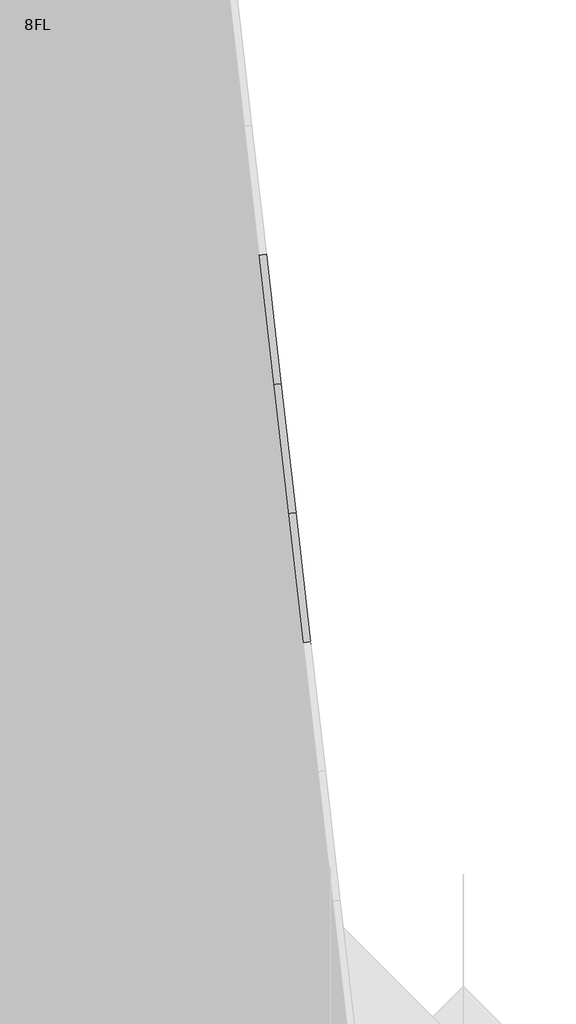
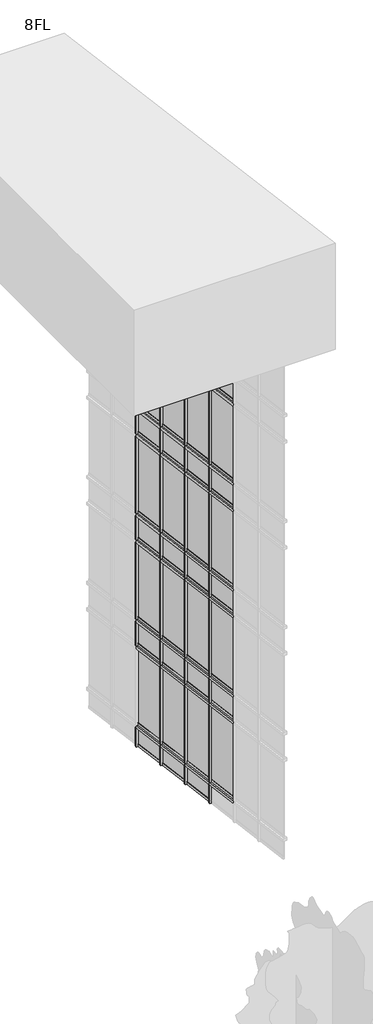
# One storey, part 3 of 4: 86 members, 43 plates.
"""IFC4 building model written with IfcOpenShell, lengths in millimetres."""

from ifc_helpers import new_model, si_unit, origin, place, context, project, spatial, transform, mapped, element, save
from components import member_100x150_b54df6fd, member_25x150_6388a252, member_70x150_d0359e29, member_70x150_07c10103, member_70x150_ebb47e88, member_70x150_8bab1bdf, plate_b29589f3, plate_a40ee780, plate_46ec0250, plate_b89069fe

model = new_model("IFC4")

# Units and contexts
model_context = context("Model", 3, world=origin())
ifc_project = project(units=[si_unit("LENGTHUNIT", "METRE", prefix="MILLI")], contexts=[model_context])

# Site, building, storey
site = spatial("IfcSite", under=ifc_project)
building = spatial("IfcBuilding", under=site)
storey = spatial("IfcBuildingStorey", under=building, Name="8FL", Elevation=28600.0)

# Members
placement = place(None, origin())
member_100x150_shape = member_100x150_b54df6fd(model_context)
element("IfcMember", 1, ObjectType="長方形のマリオン : 100x150", at=placement, inside=storey, context=model_context, shape_type="MappedRepresentation", body=[
    mapped(member_100x150_shape, transform((3528.4531013, 2867.8687169, 24600.0), x_axis=(0.0, 0.0, 1.0), y_axis=(0.9935326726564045, 0.11354659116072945, 0.0), z_axis=(-0.11354659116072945, 0.9935326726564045, 0.0))),
])
element("IfcMember", 2, ObjectType="長方形のマリオン : 100x150", at=placement, inside=storey, context=model_context, shape_type="MappedRepresentation", body=[
    mapped(member_100x150_shape, transform((3384.0375169, 4131.5050805, 24600.0), x_axis=(0.0, 0.0, 1.0), y_axis=(0.9935326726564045, 0.11354659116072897, 0.0), z_axis=(-0.11354659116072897, 0.9935326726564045, 0.0))),
])
element("IfcMember", 3, ObjectType="長方形のマリオン : 100x150", at=placement, inside=storey, context=model_context, shape_type="MappedRepresentation", body=[
    mapped(member_100x150_shape, transform((3239.6219325, 5395.1414442, 24600.0), x_axis=(0.0, 0.0, 1.0), y_axis=(0.9935326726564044, 0.11354659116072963, 0.0), z_axis=(-0.11354659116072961, 0.9935326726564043, 0.0))),
])
element("IfcMember", 4, ObjectType="長方形のマリオン : 100x150", at=placement, inside=storey, context=model_context, shape_type="MappedRepresentation", body=[
    mapped(member_100x150_shape, transform((3095.2063481, 6658.7778078, 24600.0), x_axis=(0.0, 0.0, 1.0), y_axis=(0.9935326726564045, 0.11354659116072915, 0.0), z_axis=(-0.11354659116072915, 0.9935326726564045, 0.0))),
])
element("IfcMember", 5, ObjectType="長方形のマリオン : 100x150", at=placement, inside=storey, context=model_context, shape_type="MappedRepresentation", body=[
    mapped(member_100x150_shape, transform((3528.4531013, 2867.8687169, 23600.0), x_axis=(0.0, 0.0, 1.0), y_axis=(0.9935326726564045, 0.11354659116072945, 0.0), z_axis=(-0.11354659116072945, 0.9935326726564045, 0.0))),
])
element("IfcMember", 6, ObjectType="長方形のマリオン : 100x150", at=placement, inside=storey, context=model_context, shape_type="MappedRepresentation", body=[
    mapped(member_100x150_shape, transform((3384.0375169, 4131.5050805, 23600.0), x_axis=(0.0, 0.0, 1.0), y_axis=(0.9935326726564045, 0.11354659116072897, 0.0), z_axis=(-0.11354659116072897, 0.9935326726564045, 0.0))),
])
element("IfcMember", 7, ObjectType="長方形のマリオン : 100x150", at=placement, inside=storey, context=model_context, shape_type="MappedRepresentation", body=[
    mapped(member_100x150_shape, transform((3239.6219325, 5395.1414442, 23600.0), x_axis=(0.0, 0.0, 1.0), y_axis=(0.9935326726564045, 0.11354659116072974, 0.0), z_axis=(-0.11354659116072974, 0.9935326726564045, 0.0))),
])
element("IfcMember", 8, ObjectType="長方形のマリオン : 100x150", at=placement, inside=storey, context=model_context, shape_type="MappedRepresentation", body=[
    mapped(member_100x150_shape, transform((3095.2063481, 6658.7778078, 23600.0), x_axis=(0.0, 0.0, 1.0), y_axis=(0.9935326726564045, 0.11354659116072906, 0.0), z_axis=(-0.11354659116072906, 0.9935326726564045, 0.0))),
])
element("IfcMember", 9, ObjectType="長方形のマリオン : 100x150", at=placement, inside=storey, context=model_context, shape_type="MappedRepresentation", body=[
    mapped(member_100x150_shape, transform((3528.4531013, 2867.8687169, 20600.0), x_axis=(0.0, 0.0, 1.0), y_axis=(0.9935326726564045, 0.11354659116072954, 0.0), z_axis=(-0.11354659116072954, 0.9935326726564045, 0.0))),
])
element("IfcMember", 10, ObjectType="長方形のマリオン : 100x150", at=placement, inside=storey, context=model_context, shape_type="MappedRepresentation", body=[
    mapped(member_100x150_shape, transform((3384.0375169, 4131.5050805, 20600.0), x_axis=(0.0, 0.0, 1.0), y_axis=(0.9935326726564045, 0.11354659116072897, 0.0), z_axis=(-0.11354659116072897, 0.9935326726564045, 0.0))),
])
element("IfcMember", 11, ObjectType="長方形のマリオン : 100x150", at=placement, inside=storey, context=model_context, shape_type="MappedRepresentation", body=[
    mapped(member_100x150_shape, transform((3239.6219325, 5395.1414442, 20600.0), x_axis=(0.0, 0.0, 1.0), y_axis=(0.9935326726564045, 0.11354659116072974, 0.0), z_axis=(-0.11354659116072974, 0.9935326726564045, 0.0))),
])
element("IfcMember", 12, ObjectType="長方形のマリオン : 100x150", at=placement, inside=storey, context=model_context, shape_type="MappedRepresentation", body=[
    mapped(member_100x150_shape, transform((3095.2063481, 6658.7778078, 20600.0), x_axis=(0.0, 0.0, 1.0), y_axis=(0.9935326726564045, 0.11354659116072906, 0.0), z_axis=(-0.11354659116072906, 0.9935326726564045, 0.0))),
])
element("IfcMember", 13, ObjectType="長方形のマリオン : 100x150", at=placement, inside=storey, context=model_context, shape_type="MappedRepresentation", body=[
    mapped(member_100x150_shape, transform((3528.4531013, 2867.8687169, 19600.0), x_axis=(0.0, 0.0, 1.0), y_axis=(0.9935326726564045, 0.11354659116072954, 0.0), z_axis=(-0.11354659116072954, 0.9935326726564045, 0.0))),
])
element("IfcMember", 14, ObjectType="長方形のマリオン : 100x150", at=placement, inside=storey, context=model_context, shape_type="MappedRepresentation", body=[
    mapped(member_100x150_shape, transform((3384.0375169, 4131.5050805, 19600.0), x_axis=(0.0, 0.0, 1.0), y_axis=(0.9935326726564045, 0.1135465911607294, 0.0), z_axis=(-0.1135465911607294, 0.9935326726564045, 0.0))),
])
element("IfcMember", 15, ObjectType="長方形のマリオン : 100x150", at=placement, inside=storey, context=model_context, shape_type="MappedRepresentation", body=[
    mapped(member_100x150_shape, transform((3239.6219325, 5395.1414442, 19600.0), x_axis=(0.0, 0.0, 1.0), y_axis=(0.9935326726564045, 0.11354659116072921, 0.0), z_axis=(-0.11354659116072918, 0.9935326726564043, 0.0))),
])
element("IfcMember", 16, ObjectType="長方形のマリオン : 100x150", at=placement, inside=storey, context=model_context, shape_type="MappedRepresentation", body=[
    mapped(member_100x150_shape, transform((3095.2063481, 6658.7778078, 19600.0), x_axis=(0.0, 0.0, 1.0), y_axis=(0.9935326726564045, 0.11354659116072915, 0.0), z_axis=(-0.11354659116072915, 0.9935326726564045, 0.0))),
])
element("IfcMember", 17, ObjectType="長方形のマリオン : 100x150", at=placement, inside=storey, context=model_context, shape_type="MappedRepresentation", body=[
    mapped(member_100x150_shape, transform((3528.4531013, 2867.8687169, 16600.0), x_axis=(0.0, 0.0, 1.0), y_axis=(0.9935326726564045, 0.11354659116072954, 0.0), z_axis=(-0.11354659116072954, 0.9935326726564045, 0.0))),
])
element("IfcMember", 18, ObjectType="長方形のマリオン : 100x150", at=placement, inside=storey, context=model_context, shape_type="MappedRepresentation", body=[
    mapped(member_100x150_shape, transform((3384.0375169, 4131.5050805, 16600.0), x_axis=(0.0, 0.0, 1.0), y_axis=(0.9935326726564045, 0.1135465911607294, 0.0), z_axis=(-0.1135465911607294, 0.9935326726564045, 0.0))),
])
element("IfcMember", 19, ObjectType="長方形のマリオン : 100x150", at=placement, inside=storey, context=model_context, shape_type="MappedRepresentation", body=[
    mapped(member_100x150_shape, transform((3239.6219325, 5395.1414442, 16600.0), x_axis=(0.0, 0.0, 1.0), y_axis=(0.9935326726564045, 0.11354659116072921, 0.0), z_axis=(-0.11354659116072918, 0.9935326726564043, 0.0))),
])
element("IfcMember", 20, ObjectType="長方形のマリオン : 100x150", at=placement, inside=storey, context=model_context, shape_type="MappedRepresentation", body=[
    mapped(member_100x150_shape, transform((3095.2063481, 6658.7778078, 16600.0), x_axis=(0.0, 0.0, 1.0), y_axis=(0.9935326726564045, 0.11354659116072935, 0.0), z_axis=(-0.11354659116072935, 0.9935326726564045, 0.0))),
])
element("IfcMember", 21, ObjectType="長方形のマリオン : 100x150", at=placement, inside=storey, context=model_context, shape_type="MappedRepresentation", body=[
    mapped(member_100x150_shape, transform((3528.4531013, 2867.8687169, 15600.0), x_axis=(0.0, 0.0, 1.0), y_axis=(0.9935326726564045, 0.11354659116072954, 0.0), z_axis=(-0.11354659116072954, 0.9935326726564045, 0.0))),
])
element("IfcMember", 22, ObjectType="長方形のマリオン : 100x150", at=placement, inside=storey, context=model_context, shape_type="MappedRepresentation", body=[
    mapped(member_100x150_shape, transform((3384.0375169, 4131.5050805, 15600.0), x_axis=(0.0, 0.0, 1.0), y_axis=(0.9935326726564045, 0.11354659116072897, 0.0), z_axis=(-0.11354659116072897, 0.9935326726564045, 0.0))),
])
element("IfcMember", 23, ObjectType="長方形のマリオン : 100x150", at=placement, inside=storey, context=model_context, shape_type="MappedRepresentation", body=[
    mapped(member_100x150_shape, transform((3239.6219325, 5395.1414442, 15600.0), x_axis=(0.0, 0.0, 1.0), y_axis=(0.9935326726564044, 0.11354659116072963, 0.0), z_axis=(-0.11354659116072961, 0.9935326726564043, 0.0))),
])
element("IfcMember", 24, ObjectType="長方形のマリオン : 100x150", at=placement, inside=storey, context=model_context, shape_type="MappedRepresentation", body=[
    mapped(member_100x150_shape, transform((3095.2063481, 6658.7778078, 15600.0), x_axis=(0.0, 0.0, 1.0), y_axis=(0.9935326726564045, 0.11354659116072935, 0.0), z_axis=(-0.11354659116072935, 0.9935326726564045, 0.0))),
])
element("IfcMember", 25, ObjectType="長方形のマリオン : 100x150", at=placement, inside=storey, context=model_context, shape_type="MappedRepresentation", body=[
    mapped(member_100x150_shape, transform((3528.4531013, 2867.8687169, 12600.0), x_axis=(0.0, 0.0, 1.0), y_axis=(0.9935326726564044, 0.11354659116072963, 0.0), z_axis=(-0.11354659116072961, 0.9935326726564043, 0.0))),
])
element("IfcMember", 26, ObjectType="長方形のマリオン : 100x150", at=placement, inside=storey, context=model_context, shape_type="MappedRepresentation", body=[
    mapped(member_100x150_shape, transform((3384.0375169, 4131.5050805, 12600.0), x_axis=(0.0, 0.0, 1.0), y_axis=(0.9935326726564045, 0.11354659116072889, 0.0), z_axis=(-0.11354659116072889, 0.9935326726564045, 0.0))),
])
element("IfcMember", 27, ObjectType="長方形のマリオン : 100x150", at=placement, inside=storey, context=model_context, shape_type="MappedRepresentation", body=[
    mapped(member_100x150_shape, transform((3239.6219325, 5395.1414442, 12600.0), x_axis=(0.0, 0.0, 1.0), y_axis=(0.9935326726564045, 0.11354659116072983, 0.0), z_axis=(-0.11354659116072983, 0.9935326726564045, 0.0))),
])
element("IfcMember", 28, ObjectType="長方形のマリオン : 100x150", at=placement, inside=storey, context=model_context, shape_type="MappedRepresentation", body=[
    mapped(member_100x150_shape, transform((3095.2063481, 6658.7778078, 12600.0), x_axis=(0.0, 0.0, 1.0), y_axis=(0.9935326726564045, 0.11354659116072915, 0.0), z_axis=(-0.11354659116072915, 0.9935326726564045, 0.0))),
])
element("IfcMember", 29, ObjectType="長方形のマリオン : 100x150", at=placement, inside=storey, context=model_context, shape_type="MappedRepresentation", body=[
    mapped(member_100x150_shape, transform((3528.4531013, 2867.8687169, 11600.0), x_axis=(0.0, 0.0, 1.0), y_axis=(0.9935326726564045, 0.11354659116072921, 0.0), z_axis=(-0.11354659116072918, 0.9935326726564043, 0.0))),
])
element("IfcMember", 30, ObjectType="長方形のマリオン : 100x150", at=placement, inside=storey, context=model_context, shape_type="MappedRepresentation", body=[
    mapped(member_100x150_shape, transform((3384.0375169, 4131.5050805, 11600.0), x_axis=(0.0, 0.0, 1.0), y_axis=(0.9935326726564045, 0.1135465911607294, 0.0), z_axis=(-0.1135465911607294, 0.9935326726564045, 0.0))),
])
element("IfcMember", 31, ObjectType="長方形のマリオン : 100x150", at=placement, inside=storey, context=model_context, shape_type="MappedRepresentation", body=[
    mapped(member_100x150_shape, transform((3239.6219325, 5395.1414442, 11600.0), x_axis=(0.0, 0.0, 1.0), y_axis=(0.9935326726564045, 0.11354659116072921, 0.0), z_axis=(-0.11354659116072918, 0.9935326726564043, 0.0))),
])
element("IfcMember", 32, ObjectType="長方形のマリオン : 100x150", at=placement, inside=storey, context=model_context, shape_type="MappedRepresentation", body=[
    mapped(member_100x150_shape, transform((3095.2063481, 6658.7778078, 11600.0), x_axis=(0.0, 0.0, 1.0), y_axis=(0.9935326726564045, 0.11354659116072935, 0.0), z_axis=(-0.11354659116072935, 0.9935326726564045, 0.0))),
])
element("IfcMember", 33, ObjectType="長方形のマリオン : 100x150", at=placement, inside=storey, context=model_context, shape_type="MappedRepresentation", body=[
    mapped(member_100x150_shape, transform((3528.4531013, 2867.8687169, 27600.0), x_axis=(0.0, 0.0, 1.0), y_axis=(0.9935326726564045, 0.11354659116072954, 0.0), z_axis=(-0.11354659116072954, 0.9935326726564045, 0.0))),
])
element("IfcMember", 34, ObjectType="長方形のマリオン : 100x150", at=placement, inside=storey, context=model_context, shape_type="MappedRepresentation", body=[
    mapped(member_100x150_shape, transform((3384.0375169, 4131.5050805, 27600.0), x_axis=(0.0, 0.0, 1.0), y_axis=(0.9935326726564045, 0.11354659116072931, 0.0), z_axis=(-0.11354659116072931, 0.9935326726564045, 0.0))),
])
element("IfcMember", 35, ObjectType="長方形のマリオン : 100x150", at=placement, inside=storey, context=model_context, shape_type="MappedRepresentation", body=[
    mapped(member_100x150_shape, transform((3239.6219325, 5395.1414442, 27600.0), x_axis=(0.0, 0.0, 1.0), y_axis=(0.9935326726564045, 0.11354659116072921, 0.0), z_axis=(-0.11354659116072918, 0.9935326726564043, 0.0))),
])
element("IfcMember", 36, ObjectType="長方形のマリオン : 100x150", at=placement, inside=storey, context=model_context, shape_type="MappedRepresentation", body=[
    mapped(member_100x150_shape, transform((3095.2063481, 6658.7778078, 27600.0), x_axis=(0.0, 0.0, 1.0), y_axis=(0.9935326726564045, 0.11354659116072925, 0.0), z_axis=(-0.11354659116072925, 0.9935326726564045, 0.0))),
])
element("IfcMember", 37, ObjectType="長方形のマリオン : 100x150", at=placement, inside=storey, context=model_context, shape_type="MappedRepresentation", body=[
    mapped(member_100x150_shape, transform((3528.4531013, 2867.8687169, 8600.0), x_axis=(0.0, 0.0, 1.0), y_axis=(0.9935326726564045, 0.11354659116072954, 0.0), z_axis=(-0.11354659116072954, 0.9935326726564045, 0.0))),
])
element("IfcMember", 38, ObjectType="長方形のマリオン : 100x150", at=placement, inside=storey, context=model_context, shape_type="MappedRepresentation", body=[
    mapped(member_100x150_shape, transform((3384.0375169, 4131.5050805, 8600.0), x_axis=(0.0, 0.0, 1.0), y_axis=(0.9935326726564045, 0.11354659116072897, 0.0), z_axis=(-0.11354659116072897, 0.9935326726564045, 0.0))),
])
element("IfcMember", 39, ObjectType="長方形のマリオン : 100x150", at=placement, inside=storey, context=model_context, shape_type="MappedRepresentation", body=[
    mapped(member_100x150_shape, transform((3239.6219325, 5395.1414442, 8600.0), x_axis=(0.0, 0.0, 1.0), y_axis=(0.9935326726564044, 0.11354659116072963, 0.0), z_axis=(-0.11354659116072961, 0.9935326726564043, 0.0))),
])
element("IfcMember", 40, ObjectType="長方形のマリオン : 100x150", at=placement, inside=storey, context=model_context, shape_type="MappedRepresentation", body=[
    mapped(member_100x150_shape, transform((3095.2063481, 6658.7778078, 8600.0), x_axis=(0.0, 0.0, 1.0), y_axis=(0.9935326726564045, 0.11354659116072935, 0.0), z_axis=(-0.11354659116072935, 0.9935326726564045, 0.0))),
])
member_25x150_shape = member_25x150_6388a252(model_context)
element("IfcMember", 41, ObjectType="長方形のマリオン : 25x150", at=placement, inside=storey, context=model_context, shape_type="MappedRepresentation", body=[
    mapped(member_25x150_shape, transform((3239.6219325, 5395.1414442, 28600.0), x_axis=(0.0, 0.0, 1.0), y_axis=(0.9935326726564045, 0.11354659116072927, 0.0), z_axis=(-0.11354659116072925, 0.9935326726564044, 0.0))),
])
element("IfcMember", 42, ObjectType="長方形のマリオン : 25x150", at=placement, inside=storey, context=model_context, shape_type="MappedRepresentation", body=[
    mapped(member_25x150_shape, transform((3095.2063481, 6658.7778078, 28600.0), x_axis=(0.0, 0.0, 1.0), y_axis=(0.9935326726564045, 0.11354659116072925, 0.0), z_axis=(-0.11354659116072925, 0.9935326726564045, 0.0))),
])
element("IfcMember", 43, ObjectType="長方形のマリオン : 25x150", at=placement, inside=storey, context=model_context, shape_type="MappedRepresentation", body=[
    mapped(member_25x150_shape, transform((3384.0375169, 4131.5050805, 28600.0), x_axis=(0.0, 0.0, 1.0), y_axis=(0.9935326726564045, 0.11354659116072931, 0.0), z_axis=(-0.11354659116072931, 0.9935326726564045, 0.0))),
])
member_70x150_shape = member_70x150_d0359e29(model_context)
element("IfcMember", 44, ObjectType="長方形のマリオン : 70x150", at=placement, inside=storey, context=model_context, shape_type="MappedRepresentation", body=[
    mapped(member_70x150_shape, transform((3384.0375169, 4131.5050805, 23650.0), x_axis=(-0.11354659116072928, 0.9935326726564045, 0.0), y_axis=(0.9935326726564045, 0.11354659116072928, 0.0), z_axis=(0.0, 0.0, -1.0))),
])
element("IfcMember", 45, ObjectType="長方形のマリオン : 70x150", at=placement, inside=storey, context=model_context, shape_type="MappedRepresentation", body=[
    mapped(member_70x150_shape, transform((3528.4531013, 2867.8687169, 23650.0), x_axis=(-0.11354659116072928, 0.9935326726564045, 0.0), y_axis=(0.9935326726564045, 0.11354659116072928, 0.0), z_axis=(0.0, 0.0, -1.0))),
])
element("IfcMember", 46, ObjectType="長方形のマリオン : 70x150", at=placement, inside=storey, context=model_context, shape_type="MappedRepresentation", body=[
    mapped(member_70x150_shape, transform((3239.6219325, 5395.1414442, 23650.0), x_axis=(-0.11354659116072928, 0.9935326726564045, 0.0), y_axis=(0.9935326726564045, 0.11354659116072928, 0.0), z_axis=(0.0, 0.0, -1.0))),
])
element("IfcMember", 47, ObjectType="長方形のマリオン : 70x150", at=placement, inside=storey, context=model_context, shape_type="MappedRepresentation", body=[
    mapped(member_70x150_shape, transform((3095.2063481, 6658.7778078, 23650.0), x_axis=(-0.11354659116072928, 0.9935326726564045, 0.0), y_axis=(0.9935326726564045, 0.11354659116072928, 0.0), z_axis=(0.0, 0.0, -1.0))),
])
element("IfcMember", 48, ObjectType="長方形のマリオン : 70x150", at=placement, inside=storey, context=model_context, shape_type="MappedRepresentation", body=[
    mapped(member_70x150_shape, transform((3384.0375169, 4131.5050805, 19650.0), x_axis=(-0.11354659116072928, 0.9935326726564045, 0.0), y_axis=(0.9935326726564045, 0.11354659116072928, 0.0), z_axis=(0.0, 0.0, -1.0))),
])
element("IfcMember", 49, ObjectType="長方形のマリオン : 70x150", at=placement, inside=storey, context=model_context, shape_type="MappedRepresentation", body=[
    mapped(member_70x150_shape, transform((3528.4531013, 2867.8687169, 19650.0), x_axis=(-0.11354659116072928, 0.9935326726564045, 0.0), y_axis=(0.9935326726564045, 0.11354659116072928, 0.0), z_axis=(0.0, 0.0, -1.0))),
])
element("IfcMember", 50, ObjectType="長方形のマリオン : 70x150", at=placement, inside=storey, context=model_context, shape_type="MappedRepresentation", body=[
    mapped(member_70x150_shape, transform((3239.6219325, 5395.1414442, 19650.0), x_axis=(-0.11354659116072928, 0.9935326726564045, 0.0), y_axis=(0.9935326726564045, 0.11354659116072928, 0.0), z_axis=(0.0, 0.0, -1.0))),
])
element("IfcMember", 51, ObjectType="長方形のマリオン : 70x150", at=placement, inside=storey, context=model_context, shape_type="MappedRepresentation", body=[
    mapped(member_70x150_shape, transform((3095.2063481, 6658.7778078, 19650.0), x_axis=(-0.11354659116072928, 0.9935326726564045, 0.0), y_axis=(0.9935326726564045, 0.11354659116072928, 0.0), z_axis=(0.0, 0.0, -1.0))),
])
element("IfcMember", 52, ObjectType="長方形のマリオン : 70x150", at=placement, inside=storey, context=model_context, shape_type="MappedRepresentation", body=[
    mapped(member_70x150_shape, transform((3384.0375169, 4131.5050805, 15650.0), x_axis=(-0.11354659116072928, 0.9935326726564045, 0.0), y_axis=(0.9935326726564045, 0.11354659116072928, 0.0), z_axis=(0.0, 0.0, -1.0))),
])
element("IfcMember", 53, ObjectType="長方形のマリオン : 70x150", at=placement, inside=storey, context=model_context, shape_type="MappedRepresentation", body=[
    mapped(member_70x150_shape, transform((3528.4531013, 2867.8687169, 15650.0), x_axis=(-0.11354659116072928, 0.9935326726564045, 0.0), y_axis=(0.9935326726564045, 0.11354659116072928, 0.0), z_axis=(0.0, 0.0, -1.0))),
])
element("IfcMember", 54, ObjectType="長方形のマリオン : 70x150", at=placement, inside=storey, context=model_context, shape_type="MappedRepresentation", body=[
    mapped(member_70x150_shape, transform((3239.6219325, 5395.1414442, 15650.0), x_axis=(-0.11354659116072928, 0.9935326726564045, 0.0), y_axis=(0.9935326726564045, 0.11354659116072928, 0.0), z_axis=(0.0, 0.0, -1.0))),
])
element("IfcMember", 55, ObjectType="長方形のマリオン : 70x150", at=placement, inside=storey, context=model_context, shape_type="MappedRepresentation", body=[
    mapped(member_70x150_shape, transform((3095.2063481, 6658.7778078, 15650.0), x_axis=(-0.11354659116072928, 0.9935326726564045, 0.0), y_axis=(0.9935326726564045, 0.11354659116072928, 0.0), z_axis=(0.0, 0.0, -1.0))),
])
element("IfcMember", 56, ObjectType="長方形のマリオン : 70x150", at=placement, inside=storey, context=model_context, shape_type="MappedRepresentation", body=[
    mapped(member_70x150_shape, transform((3384.0375169, 4131.5050805, 11650.0), x_axis=(-0.11354659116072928, 0.9935326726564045, 0.0), y_axis=(0.9935326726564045, 0.11354659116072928, 0.0), z_axis=(0.0, 0.0, -1.0))),
])
element("IfcMember", 57, ObjectType="長方形のマリオン : 70x150", at=placement, inside=storey, context=model_context, shape_type="MappedRepresentation", body=[
    mapped(member_70x150_shape, transform((3528.4531013, 2867.8687169, 11650.0), x_axis=(-0.11354659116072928, 0.9935326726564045, 0.0), y_axis=(0.9935326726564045, 0.11354659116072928, 0.0), z_axis=(0.0, 0.0, -1.0))),
])
element("IfcMember", 58, ObjectType="長方形のマリオン : 70x150", at=placement, inside=storey, context=model_context, shape_type="MappedRepresentation", body=[
    mapped(member_70x150_shape, transform((3239.6219325, 5395.1414442, 11650.0), x_axis=(-0.11354659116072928, 0.9935326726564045, 0.0), y_axis=(0.9935326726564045, 0.11354659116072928, 0.0), z_axis=(0.0, 0.0, -1.0))),
])
element("IfcMember", 59, ObjectType="長方形のマリオン : 70x150", at=placement, inside=storey, context=model_context, shape_type="MappedRepresentation", body=[
    mapped(member_70x150_shape, transform((3095.2063481, 6658.7778078, 11650.0), x_axis=(-0.11354659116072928, 0.9935326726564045, 0.0), y_axis=(0.9935326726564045, 0.11354659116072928, 0.0), z_axis=(0.0, 0.0, -1.0))),
])
member_70x150_2_shape = member_70x150_07c10103(model_context)
element("IfcMember", 60, ObjectType="長方形のマリオン : 70x150", at=placement, inside=storey, context=model_context, shape_type="MappedRepresentation", body=[
    mapped(member_70x150_2_shape, transform((3384.0375169, 4131.5050805, 24650.0), x_axis=(-0.11354659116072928, 0.9935326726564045, 0.0), y_axis=(0.9935326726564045, 0.11354659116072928, 0.0), z_axis=(0.0, 0.0, -1.0))),
])
element("IfcMember", 61, ObjectType="長方形のマリオン : 70x150", at=placement, inside=storey, context=model_context, shape_type="MappedRepresentation", body=[
    mapped(member_70x150_2_shape, transform((3528.4531013, 2867.8687169, 24650.0), x_axis=(-0.11354659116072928, 0.9935326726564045, 0.0), y_axis=(0.9935326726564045, 0.11354659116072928, 0.0), z_axis=(0.0, 0.0, -1.0))),
])
element("IfcMember", 62, ObjectType="長方形のマリオン : 70x150", at=placement, inside=storey, context=model_context, shape_type="MappedRepresentation", body=[
    mapped(member_70x150_2_shape, transform((3239.6219325, 5395.1414442, 24650.0), x_axis=(-0.11354659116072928, 0.9935326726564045, 0.0), y_axis=(0.9935326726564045, 0.11354659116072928, 0.0), z_axis=(0.0, 0.0, -1.0))),
])
element("IfcMember", 63, ObjectType="長方形のマリオン : 70x150", at=placement, inside=storey, context=model_context, shape_type="MappedRepresentation", body=[
    mapped(member_70x150_2_shape, transform((3095.2063481, 6658.7778078, 24650.0), x_axis=(-0.11354659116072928, 0.9935326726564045, 0.0), y_axis=(0.9935326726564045, 0.11354659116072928, 0.0), z_axis=(0.0, 0.0, -1.0))),
])
element("IfcMember", 64, ObjectType="長方形のマリオン : 70x150", at=placement, inside=storey, context=model_context, shape_type="MappedRepresentation", body=[
    mapped(member_70x150_2_shape, transform((3384.0375169, 4131.5050805, 20650.0), x_axis=(-0.11354659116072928, 0.9935326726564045, 0.0), y_axis=(0.9935326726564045, 0.11354659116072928, 0.0), z_axis=(0.0, 0.0, -1.0))),
])
element("IfcMember", 65, ObjectType="長方形のマリオン : 70x150", at=placement, inside=storey, context=model_context, shape_type="MappedRepresentation", body=[
    mapped(member_70x150_2_shape, transform((3528.4531013, 2867.8687169, 20650.0), x_axis=(-0.11354659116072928, 0.9935326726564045, 0.0), y_axis=(0.9935326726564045, 0.11354659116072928, 0.0), z_axis=(0.0, 0.0, -1.0))),
])
element("IfcMember", 66, ObjectType="長方形のマリオン : 70x150", at=placement, inside=storey, context=model_context, shape_type="MappedRepresentation", body=[
    mapped(member_70x150_2_shape, transform((3239.6219325, 5395.1414442, 20650.0), x_axis=(-0.11354659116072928, 0.9935326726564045, 0.0), y_axis=(0.9935326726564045, 0.11354659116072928, 0.0), z_axis=(0.0, 0.0, -1.0))),
])
element("IfcMember", 67, ObjectType="長方形のマリオン : 70x150", at=placement, inside=storey, context=model_context, shape_type="MappedRepresentation", body=[
    mapped(member_70x150_2_shape, transform((3095.2063481, 6658.7778078, 20650.0), x_axis=(-0.11354659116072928, 0.9935326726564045, 0.0), y_axis=(0.9935326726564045, 0.11354659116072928, 0.0), z_axis=(0.0, 0.0, -1.0))),
])
element("IfcMember", 68, ObjectType="長方形のマリオン : 70x150", at=placement, inside=storey, context=model_context, shape_type="MappedRepresentation", body=[
    mapped(member_70x150_2_shape, transform((3384.0375169, 4131.5050805, 16650.0), x_axis=(-0.11354659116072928, 0.9935326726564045, 0.0), y_axis=(0.9935326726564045, 0.11354659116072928, 0.0), z_axis=(0.0, 0.0, -1.0))),
])
element("IfcMember", 69, ObjectType="長方形のマリオン : 70x150", at=placement, inside=storey, context=model_context, shape_type="MappedRepresentation", body=[
    mapped(member_70x150_2_shape, transform((3528.4531013, 2867.8687169, 16650.0), x_axis=(-0.11354659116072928, 0.9935326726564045, 0.0), y_axis=(0.9935326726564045, 0.11354659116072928, 0.0), z_axis=(0.0, 0.0, -1.0))),
])
element("IfcMember", 70, ObjectType="長方形のマリオン : 70x150", at=placement, inside=storey, context=model_context, shape_type="MappedRepresentation", body=[
    mapped(member_70x150_2_shape, transform((3239.6219325, 5395.1414442, 16650.0), x_axis=(-0.11354659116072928, 0.9935326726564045, 0.0), y_axis=(0.9935326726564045, 0.11354659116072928, 0.0), z_axis=(0.0, 0.0, -1.0))),
])
element("IfcMember", 71, ObjectType="長方形のマリオン : 70x150", at=placement, inside=storey, context=model_context, shape_type="MappedRepresentation", body=[
    mapped(member_70x150_2_shape, transform((3095.2063481, 6658.7778078, 16650.0), x_axis=(-0.11354659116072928, 0.9935326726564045, 0.0), y_axis=(0.9935326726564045, 0.11354659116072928, 0.0), z_axis=(0.0, 0.0, -1.0))),
])
element("IfcMember", 72, ObjectType="長方形のマリオン : 70x150", at=placement, inside=storey, context=model_context, shape_type="MappedRepresentation", body=[
    mapped(member_70x150_2_shape, transform((3384.0375169, 4131.5050805, 12650.0), x_axis=(-0.11354659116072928, 0.9935326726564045, 0.0), y_axis=(0.9935326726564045, 0.11354659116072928, 0.0), z_axis=(0.0, 0.0, -1.0))),
])
element("IfcMember", 73, ObjectType="長方形のマリオン : 70x150", at=placement, inside=storey, context=model_context, shape_type="MappedRepresentation", body=[
    mapped(member_70x150_2_shape, transform((3528.4531013, 2867.8687169, 12650.0), x_axis=(-0.11354659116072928, 0.9935326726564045, 0.0), y_axis=(0.9935326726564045, 0.11354659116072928, 0.0), z_axis=(0.0, 0.0, -1.0))),
])
element("IfcMember", 74, ObjectType="長方形のマリオン : 70x150", at=placement, inside=storey, context=model_context, shape_type="MappedRepresentation", body=[
    mapped(member_70x150_2_shape, transform((3239.6219325, 5395.1414442, 12650.0), x_axis=(-0.11354659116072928, 0.9935326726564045, 0.0), y_axis=(0.9935326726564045, 0.11354659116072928, 0.0), z_axis=(0.0, 0.0, -1.0))),
])
element("IfcMember", 75, ObjectType="長方形のマリオン : 70x150", at=placement, inside=storey, context=model_context, shape_type="MappedRepresentation", body=[
    mapped(member_70x150_2_shape, transform((3095.2063481, 6658.7778078, 12650.0), x_axis=(-0.11354659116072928, 0.9935326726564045, 0.0), y_axis=(0.9935326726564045, 0.11354659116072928, 0.0), z_axis=(0.0, 0.0, -1.0))),
])
element("IfcMember", 76, ObjectType="長方形のマリオン : 70x150", at=placement, inside=storey, context=model_context, shape_type="MappedRepresentation", body=[
    mapped(member_70x150_2_shape, transform((3528.4531013, 2867.8687169, 8650.0), x_axis=(-0.11354659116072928, 0.9935326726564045, 0.0), y_axis=(0.9935326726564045, 0.11354659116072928, 0.0), z_axis=(0.0, 0.0, -1.0))),
])
element("IfcMember", 77, ObjectType="長方形のマリオン : 70x150", at=placement, inside=storey, context=model_context, shape_type="MappedRepresentation", body=[
    mapped(member_70x150_2_shape, transform((3384.0375169, 4131.5050805, 8650.0), x_axis=(-0.11354659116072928, 0.9935326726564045, 0.0), y_axis=(0.9935326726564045, 0.11354659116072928, 0.0), z_axis=(0.0, 0.0, -1.0))),
])
element("IfcMember", 78, ObjectType="長方形のマリオン : 70x150", at=placement, inside=storey, context=model_context, shape_type="MappedRepresentation", body=[
    mapped(member_70x150_2_shape, transform((3239.6219325, 5395.1414442, 8650.0), x_axis=(-0.11354659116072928, 0.9935326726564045, 0.0), y_axis=(0.9935326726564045, 0.11354659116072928, 0.0), z_axis=(0.0, 0.0, -1.0))),
])
member_70x150_3_shape = member_70x150_ebb47e88(model_context)
element("IfcMember", 79, ObjectType="長方形のマリオン : 70x150", at=placement, inside=storey, context=model_context, shape_type="MappedRepresentation", body=[
    mapped(member_70x150_3_shape, transform((3239.6219325, 5395.1414442, 7850.0), x_axis=(-0.11354659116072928, 0.9935326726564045, 0.0), y_axis=(0.9935326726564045, 0.11354659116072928, 0.0), z_axis=(0.0, 0.0, -1.0))),
])
element("IfcMember", 80, ObjectType="長方形のマリオン : 70x150", at=placement, inside=storey, context=model_context, shape_type="MappedRepresentation", body=[
    mapped(member_70x150_3_shape, transform((3095.2063481, 6658.7778078, 7850.0), x_axis=(-0.11354659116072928, 0.9935326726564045, 0.0), y_axis=(0.9935326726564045, 0.11354659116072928, 0.0), z_axis=(0.0, 0.0, -1.0))),
])
element("IfcMember", 81, ObjectType="長方形のマリオン : 70x150", at=placement, inside=storey, context=model_context, shape_type="MappedRepresentation", body=[
    mapped(member_70x150_3_shape, transform((3384.0375169, 4131.5050805, 7850.0), x_axis=(-0.11354659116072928, 0.9935326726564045, 0.0), y_axis=(0.9935326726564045, 0.11354659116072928, 0.0), z_axis=(0.0, 0.0, -1.0))),
])
element("IfcMember", 82, ObjectType="長方形のマリオン : 70x150", at=placement, inside=storey, context=model_context, shape_type="MappedRepresentation", body=[
    mapped(member_70x150_3_shape, transform((3528.4531013, 2867.8687169, 7850.0), x_axis=(-0.11354659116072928, 0.9935326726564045, 0.0), y_axis=(0.9935326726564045, 0.11354659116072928, 0.0), z_axis=(0.0, 0.0, -1.0))),
])
member_70x150_4_shape = member_70x150_8bab1bdf(model_context)
element("IfcMember", 83, ObjectType="長方形のマリオン : 70x150", at=placement, inside=storey, context=model_context, shape_type="MappedRepresentation", body=[
    mapped(member_70x150_4_shape, transform((3384.0375169, 4131.5050805, 27650.0), x_axis=(-0.11354659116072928, 0.9935326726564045, 0.0), y_axis=(0.9935326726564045, 0.11354659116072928, 0.0), z_axis=(0.0, 0.0, -1.0))),
])
element("IfcMember", 84, ObjectType="長方形のマリオン : 70x150", at=placement, inside=storey, context=model_context, shape_type="MappedRepresentation", body=[
    mapped(member_70x150_4_shape, transform((3528.4531013, 2867.8687169, 27650.0), x_axis=(-0.11354659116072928, 0.9935326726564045, 0.0), y_axis=(0.9935326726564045, 0.11354659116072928, 0.0), z_axis=(0.0, 0.0, -1.0))),
])
element("IfcMember", 85, ObjectType="長方形のマリオン : 70x150", at=placement, inside=storey, context=model_context, shape_type="MappedRepresentation", body=[
    mapped(member_70x150_4_shape, transform((3239.6219325, 5395.1414442, 27650.0), x_axis=(-0.11354659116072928, 0.9935326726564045, 0.0), y_axis=(0.9935326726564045, 0.11354659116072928, 0.0), z_axis=(0.0, 0.0, -1.0))),
])
element("IfcMember", 86, ObjectType="長方形のマリオン : 70x150", at=placement, inside=storey, context=model_context, shape_type="MappedRepresentation", body=[
    mapped(member_70x150_4_shape, transform((3095.2063481, 6658.7778078, 27650.0), x_axis=(-0.11354659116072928, 0.9935326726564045, 0.0), y_axis=(0.9935326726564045, 0.11354659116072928, 0.0), z_axis=(0.0, 0.0, -1.0))),
])

# Plates
plate_shape = plate_b29589f3(model_context)
element("IfcPlate", 87, ObjectType="r パネル FIX 下框付 : 框 H100", at=placement, inside=storey, context=model_context, shape_type="MappedRepresentation", body=[
    mapped(plate_shape, transform((3311.8297247, 4763.3232623, 23650.0), x_axis=(-0.11354659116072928, 0.9935326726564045, 0.0), y_axis=(-0.9935326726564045, -0.11354659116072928, 0.0), z_axis=(0.0, 0.0, 1.0))),
])
element("IfcPlate", 88, ObjectType="r パネル FIX 下框付 : 框 H100", at=placement, inside=storey, context=model_context, shape_type="MappedRepresentation", body=[
    mapped(plate_shape, transform((3456.2453091, 3499.6868987, 23650.0), x_axis=(-0.11354659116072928, 0.9935326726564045, 0.0), y_axis=(-0.9935326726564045, -0.11354659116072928, 0.0), z_axis=(0.0, 0.0, 1.0))),
])
element("IfcPlate", 89, ObjectType="r パネル FIX 下框付 : 框 H100", at=placement, inside=storey, context=model_context, shape_type="MappedRepresentation", body=[
    mapped(plate_shape, transform((3600.6608936, 2236.0505351, 23650.0), x_axis=(-0.11354659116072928, 0.9935326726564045, 0.0), y_axis=(-0.9935326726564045, -0.11354659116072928, 0.0), z_axis=(0.0, 0.0, 1.0))),
])
element("IfcPlate", 90, ObjectType="r パネル FIX 下框付 : 框 H100", at=placement, inside=storey, context=model_context, shape_type="MappedRepresentation", body=[
    mapped(plate_shape, transform((3167.4141403, 6026.959626, 23650.0), x_axis=(-0.11354659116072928, 0.9935326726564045, 0.0), y_axis=(-0.9935326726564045, -0.11354659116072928, 0.0), z_axis=(0.0, 0.0, 1.0))),
])
element("IfcPlate", 91, ObjectType="r パネル FIX 下框付 : 框 H100", at=placement, inside=storey, context=model_context, shape_type="MappedRepresentation", body=[
    mapped(plate_shape, transform((3311.8297247, 4763.3232623, 19650.0), x_axis=(-0.11354659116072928, 0.9935326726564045, 0.0), y_axis=(-0.9935326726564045, -0.11354659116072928, 0.0), z_axis=(0.0, 0.0, 1.0))),
])
element("IfcPlate", 92, ObjectType="r パネル FIX 下框付 : 框 H100", at=placement, inside=storey, context=model_context, shape_type="MappedRepresentation", body=[
    mapped(plate_shape, transform((3456.2453091, 3499.6868987, 19650.0), x_axis=(-0.11354659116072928, 0.9935326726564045, 0.0), y_axis=(-0.9935326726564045, -0.11354659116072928, 0.0), z_axis=(0.0, 0.0, 1.0))),
])
element("IfcPlate", 93, ObjectType="r パネル FIX 下框付 : 框 H100", at=placement, inside=storey, context=model_context, shape_type="MappedRepresentation", body=[
    mapped(plate_shape, transform((3600.6608936, 2236.0505351, 19650.0), x_axis=(-0.11354659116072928, 0.9935326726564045, 0.0), y_axis=(-0.9935326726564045, -0.11354659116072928, 0.0), z_axis=(0.0, 0.0, 1.0))),
])
element("IfcPlate", 94, ObjectType="r パネル FIX 下框付 : 框 H100", at=placement, inside=storey, context=model_context, shape_type="MappedRepresentation", body=[
    mapped(plate_shape, transform((3167.4141403, 6026.959626, 19650.0), x_axis=(-0.11354659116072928, 0.9935326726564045, 0.0), y_axis=(-0.9935326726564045, -0.11354659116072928, 0.0), z_axis=(0.0, 0.0, 1.0))),
])
element("IfcPlate", 95, ObjectType="r パネル FIX 下框付 : 框 H100", at=placement, inside=storey, context=model_context, shape_type="MappedRepresentation", body=[
    mapped(plate_shape, transform((3311.8297247, 4763.3232623, 15650.0), x_axis=(-0.11354659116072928, 0.9935326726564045, 0.0), y_axis=(-0.9935326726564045, -0.11354659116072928, 0.0), z_axis=(0.0, 0.0, 1.0))),
])
element("IfcPlate", 96, ObjectType="r パネル FIX 下框付 : 框 H100", at=placement, inside=storey, context=model_context, shape_type="MappedRepresentation", body=[
    mapped(plate_shape, transform((3456.2453091, 3499.6868987, 15650.0), x_axis=(-0.11354659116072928, 0.9935326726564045, 0.0), y_axis=(-0.9935326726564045, -0.11354659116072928, 0.0), z_axis=(0.0, 0.0, 1.0))),
])
element("IfcPlate", 97, ObjectType="r パネル FIX 下框付 : 框 H100", at=placement, inside=storey, context=model_context, shape_type="MappedRepresentation", body=[
    mapped(plate_shape, transform((3600.6608936, 2236.0505351, 15650.0), x_axis=(-0.11354659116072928, 0.9935326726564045, 0.0), y_axis=(-0.9935326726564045, -0.11354659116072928, 0.0), z_axis=(0.0, 0.0, 1.0))),
])
element("IfcPlate", 98, ObjectType="r パネル FIX 下框付 : 框 H100", at=placement, inside=storey, context=model_context, shape_type="MappedRepresentation", body=[
    mapped(plate_shape, transform((3167.4141403, 6026.959626, 15650.0), x_axis=(-0.11354659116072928, 0.9935326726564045, 0.0), y_axis=(-0.9935326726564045, -0.11354659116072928, 0.0), z_axis=(0.0, 0.0, 1.0))),
])
element("IfcPlate", 99, ObjectType="r パネル FIX 下框付 : 框 H100", at=placement, inside=storey, context=model_context, shape_type="MappedRepresentation", body=[
    mapped(plate_shape, transform((3311.8297247, 4763.3232623, 11650.0), x_axis=(-0.11354659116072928, 0.9935326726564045, 0.0), y_axis=(-0.9935326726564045, -0.11354659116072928, 0.0), z_axis=(0.0, 0.0, 1.0))),
])
element("IfcPlate", 100, ObjectType="r パネル FIX 下框付 : 框 H100", at=placement, inside=storey, context=model_context, shape_type="MappedRepresentation", body=[
    mapped(plate_shape, transform((3456.2453091, 3499.6868987, 11650.0), x_axis=(-0.11354659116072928, 0.9935326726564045, 0.0), y_axis=(-0.9935326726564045, -0.11354659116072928, 0.0), z_axis=(0.0, 0.0, 1.0))),
])
element("IfcPlate", 101, ObjectType="r パネル FIX 下框付 : 框 H100", at=placement, inside=storey, context=model_context, shape_type="MappedRepresentation", body=[
    mapped(plate_shape, transform((3600.6608936, 2236.0505351, 11650.0), x_axis=(-0.11354659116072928, 0.9935326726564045, 0.0), y_axis=(-0.9935326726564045, -0.11354659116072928, 0.0), z_axis=(0.0, 0.0, 1.0))),
])
element("IfcPlate", 102, ObjectType="r パネル FIX 下框付 : 框 H100", at=placement, inside=storey, context=model_context, shape_type="MappedRepresentation", body=[
    mapped(plate_shape, transform((3167.4141403, 6026.959626, 11650.0), x_axis=(-0.11354659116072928, 0.9935326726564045, 0.0), y_axis=(-0.9935326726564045, -0.11354659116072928, 0.0), z_axis=(0.0, 0.0, 1.0))),
])
plate_2_shape = plate_a40ee780(model_context)
element("IfcPlate", 103, ObjectType="r パネル FIX 下框付 : 框 H100", at=placement, inside=storey, context=model_context, shape_type="MappedRepresentation", body=[
    mapped(plate_2_shape, transform((3311.8297247, 4763.3232623, 24650.0), x_axis=(-0.11354659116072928, 0.9935326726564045, 0.0), y_axis=(-0.9935326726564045, -0.11354659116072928, 0.0), z_axis=(0.0, 0.0, 1.0))),
])
element("IfcPlate", 104, ObjectType="r パネル FIX 下框付 : 框 H100", at=placement, inside=storey, context=model_context, shape_type="MappedRepresentation", body=[
    mapped(plate_2_shape, transform((3456.2453091, 3499.6868987, 24650.0), x_axis=(-0.11354659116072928, 0.9935326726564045, 0.0), y_axis=(-0.9935326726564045, -0.11354659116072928, 0.0), z_axis=(0.0, 0.0, 1.0))),
])
element("IfcPlate", 105, ObjectType="r パネル FIX 下框付 : 框 H100", at=placement, inside=storey, context=model_context, shape_type="MappedRepresentation", body=[
    mapped(plate_2_shape, transform((3600.6608936, 2236.0505351, 24650.0), x_axis=(-0.11354659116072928, 0.9935326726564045, 0.0), y_axis=(-0.9935326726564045, -0.11354659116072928, 0.0), z_axis=(0.0, 0.0, 1.0))),
])
element("IfcPlate", 106, ObjectType="r パネル FIX 下框付 : 框 H100", at=placement, inside=storey, context=model_context, shape_type="MappedRepresentation", body=[
    mapped(plate_2_shape, transform((3167.4141403, 6026.959626, 24650.0), x_axis=(-0.11354659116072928, 0.9935326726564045, 0.0), y_axis=(-0.9935326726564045, -0.11354659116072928, 0.0), z_axis=(0.0, 0.0, 1.0))),
])
element("IfcPlate", 107, ObjectType="r パネル FIX 下框付 : 框 H100", at=placement, inside=storey, context=model_context, shape_type="MappedRepresentation", body=[
    mapped(plate_2_shape, transform((3311.8297247, 4763.3232623, 20650.0), x_axis=(-0.11354659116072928, 0.9935326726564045, 0.0), y_axis=(-0.9935326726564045, -0.11354659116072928, 0.0), z_axis=(0.0, 0.0, 1.0))),
])
element("IfcPlate", 108, ObjectType="r パネル FIX 下框付 : 框 H100", at=placement, inside=storey, context=model_context, shape_type="MappedRepresentation", body=[
    mapped(plate_2_shape, transform((3456.2453091, 3499.6868987, 20650.0), x_axis=(-0.11354659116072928, 0.9935326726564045, 0.0), y_axis=(-0.9935326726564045, -0.11354659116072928, 0.0), z_axis=(0.0, 0.0, 1.0))),
])
element("IfcPlate", 109, ObjectType="r パネル FIX 下框付 : 框 H100", at=placement, inside=storey, context=model_context, shape_type="MappedRepresentation", body=[
    mapped(plate_2_shape, transform((3600.6608936, 2236.0505351, 20650.0), x_axis=(-0.11354659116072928, 0.9935326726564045, 0.0), y_axis=(-0.9935326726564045, -0.11354659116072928, 0.0), z_axis=(0.0, 0.0, 1.0))),
])
element("IfcPlate", 110, ObjectType="r パネル FIX 下框付 : 框 H100", at=placement, inside=storey, context=model_context, shape_type="MappedRepresentation", body=[
    mapped(plate_2_shape, transform((3167.4141403, 6026.959626, 20650.0), x_axis=(-0.11354659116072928, 0.9935326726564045, 0.0), y_axis=(-0.9935326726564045, -0.11354659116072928, 0.0), z_axis=(0.0, 0.0, 1.0))),
])
element("IfcPlate", 111, ObjectType="r パネル FIX 下框付 : 框 H100", at=placement, inside=storey, context=model_context, shape_type="MappedRepresentation", body=[
    mapped(plate_2_shape, transform((3311.8297247, 4763.3232623, 16650.0), x_axis=(-0.11354659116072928, 0.9935326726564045, 0.0), y_axis=(-0.9935326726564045, -0.11354659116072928, 0.0), z_axis=(0.0, 0.0, 1.0))),
])
element("IfcPlate", 112, ObjectType="r パネル FIX 下框付 : 框 H100", at=placement, inside=storey, context=model_context, shape_type="MappedRepresentation", body=[
    mapped(plate_2_shape, transform((3456.2453091, 3499.6868987, 16650.0), x_axis=(-0.11354659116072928, 0.9935326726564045, 0.0), y_axis=(-0.9935326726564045, -0.11354659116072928, 0.0), z_axis=(0.0, 0.0, 1.0))),
])
element("IfcPlate", 113, ObjectType="r パネル FIX 下框付 : 框 H100", at=placement, inside=storey, context=model_context, shape_type="MappedRepresentation", body=[
    mapped(plate_2_shape, transform((3600.6608936, 2236.0505351, 16650.0), x_axis=(-0.11354659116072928, 0.9935326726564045, 0.0), y_axis=(-0.9935326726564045, -0.11354659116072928, 0.0), z_axis=(0.0, 0.0, 1.0))),
])
element("IfcPlate", 114, ObjectType="r パネル FIX 下框付 : 框 H100", at=placement, inside=storey, context=model_context, shape_type="MappedRepresentation", body=[
    mapped(plate_2_shape, transform((3167.4141403, 6026.959626, 16650.0), x_axis=(-0.11354659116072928, 0.9935326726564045, 0.0), y_axis=(-0.9935326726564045, -0.11354659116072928, 0.0), z_axis=(0.0, 0.0, 1.0))),
])
element("IfcPlate", 115, ObjectType="r パネル FIX 下框付 : 框 H100", at=placement, inside=storey, context=model_context, shape_type="MappedRepresentation", body=[
    mapped(plate_2_shape, transform((3311.8297247, 4763.3232623, 12650.0), x_axis=(-0.11354659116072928, 0.9935326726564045, 0.0), y_axis=(-0.9935326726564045, -0.11354659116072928, 0.0), z_axis=(0.0, 0.0, 1.0))),
])
element("IfcPlate", 116, ObjectType="r パネル FIX 下框付 : 框 H100", at=placement, inside=storey, context=model_context, shape_type="MappedRepresentation", body=[
    mapped(plate_2_shape, transform((3456.2453091, 3499.6868987, 12650.0), x_axis=(-0.11354659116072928, 0.9935326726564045, 0.0), y_axis=(-0.9935326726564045, -0.11354659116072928, 0.0), z_axis=(0.0, 0.0, 1.0))),
])
element("IfcPlate", 117, ObjectType="r パネル FIX 下框付 : 框 H100", at=placement, inside=storey, context=model_context, shape_type="MappedRepresentation", body=[
    mapped(plate_2_shape, transform((3600.6608936, 2236.0505351, 12650.0), x_axis=(-0.11354659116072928, 0.9935326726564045, 0.0), y_axis=(-0.9935326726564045, -0.11354659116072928, 0.0), z_axis=(0.0, 0.0, 1.0))),
])
element("IfcPlate", 118, ObjectType="r パネル FIX 下框付 : 框 H100", at=placement, inside=storey, context=model_context, shape_type="MappedRepresentation", body=[
    mapped(plate_2_shape, transform((3167.4141403, 6026.959626, 12650.0), x_axis=(-0.11354659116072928, 0.9935326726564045, 0.0), y_axis=(-0.9935326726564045, -0.11354659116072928, 0.0), z_axis=(0.0, 0.0, 1.0))),
])
element("IfcPlate", 119, ObjectType="r パネル FIX 下框付 : 框 H100", at=placement, inside=storey, context=model_context, shape_type="MappedRepresentation", body=[
    mapped(plate_2_shape, transform((3600.6608936, 2236.0505351, 8650.0), x_axis=(-0.11354659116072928, 0.9935326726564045, 0.0), y_axis=(-0.9935326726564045, -0.11354659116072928, 0.0), z_axis=(0.0, 0.0, 1.0))),
])
element("IfcPlate", 120, ObjectType="r パネル FIX 下框付 : 框 H100", at=placement, inside=storey, context=model_context, shape_type="MappedRepresentation", body=[
    mapped(plate_2_shape, transform((3456.2453091, 3499.6868987, 8650.0), x_axis=(-0.11354659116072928, 0.9935326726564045, 0.0), y_axis=(-0.9935326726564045, -0.11354659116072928, 0.0), z_axis=(0.0, 0.0, 1.0))),
])
element("IfcPlate", 121, ObjectType="r パネル FIX 下框付 : 框 H100", at=placement, inside=storey, context=model_context, shape_type="MappedRepresentation", body=[
    mapped(plate_2_shape, transform((3311.8297247, 4763.3232623, 8650.0), x_axis=(-0.11354659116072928, 0.9935326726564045, 0.0), y_axis=(-0.9935326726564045, -0.11354659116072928, 0.0), z_axis=(0.0, 0.0, 1.0))),
])
element("IfcPlate", 122, ObjectType="r パネル FIX 下框付 : 框 H100", at=placement, inside=storey, context=model_context, shape_type="MappedRepresentation", body=[
    mapped(plate_2_shape, transform((3167.4141403, 6026.959626, 8650.0), x_axis=(-0.11354659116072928, 0.9935326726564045, 0.0), y_axis=(-0.9935326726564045, -0.11354659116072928, 0.0), z_axis=(0.0, 0.0, 1.0))),
])
plate_3_shape = plate_46ec0250(model_context)
element("IfcPlate", 123, ObjectType="r パネル FIX 下框付 : 框 H100", at=placement, inside=storey, context=model_context, shape_type="MappedRepresentation", body=[
    mapped(plate_3_shape, transform((3167.4141403, 6026.959626, 7850.0), x_axis=(-0.11354659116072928, 0.9935326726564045, 0.0), y_axis=(-0.9935326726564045, -0.11354659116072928, 0.0), z_axis=(0.0, 0.0, 1.0))),
])
element("IfcPlate", 124, ObjectType="r パネル FIX 下框付 : 框 H100", at=placement, inside=storey, context=model_context, shape_type="MappedRepresentation", body=[
    mapped(plate_3_shape, transform((3311.8297247, 4763.3232623, 7850.0), x_axis=(-0.11354659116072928, 0.9935326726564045, 0.0), y_axis=(-0.9935326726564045, -0.11354659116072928, 0.0), z_axis=(0.0, 0.0, 1.0))),
])
element("IfcPlate", 125, ObjectType="r パネル FIX 下框付 : 框 H100", at=placement, inside=storey, context=model_context, shape_type="MappedRepresentation", body=[
    mapped(plate_3_shape, transform((3456.2453091, 3499.6868987, 7850.0), x_axis=(-0.11354659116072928, 0.9935326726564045, 0.0), y_axis=(-0.9935326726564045, -0.11354659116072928, 0.0), z_axis=(0.0, 0.0, 1.0))),
])
plate_4_shape = plate_b89069fe(model_context)
element("IfcPlate", 126, ObjectType="r パネル FIX 下框付 : 框 H100", at=placement, inside=storey, context=model_context, shape_type="MappedRepresentation", body=[
    mapped(plate_4_shape, transform((3311.8297247, 4763.3232623, 27650.0), x_axis=(-0.11354659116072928, 0.9935326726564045, 0.0), y_axis=(-0.9935326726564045, -0.11354659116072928, 0.0), z_axis=(0.0, 0.0, 1.0))),
])
element("IfcPlate", 127, ObjectType="r パネル FIX 下框付 : 框 H100", at=placement, inside=storey, context=model_context, shape_type="MappedRepresentation", body=[
    mapped(plate_4_shape, transform((3456.2453091, 3499.6868987, 27650.0), x_axis=(-0.11354659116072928, 0.9935326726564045, 0.0), y_axis=(-0.9935326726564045, -0.11354659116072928, 0.0), z_axis=(0.0, 0.0, 1.0))),
])
element("IfcPlate", 128, ObjectType="r パネル FIX 下框付 : 框 H100", at=placement, inside=storey, context=model_context, shape_type="MappedRepresentation", body=[
    mapped(plate_4_shape, transform((3600.6608936, 2236.0505351, 27650.0), x_axis=(-0.11354659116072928, 0.9935326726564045, 0.0), y_axis=(-0.9935326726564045, -0.11354659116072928, 0.0), z_axis=(0.0, 0.0, 1.0))),
])
element("IfcPlate", 129, ObjectType="r パネル FIX 下框付 : 框 H100", at=placement, inside=storey, context=model_context, shape_type="MappedRepresentation", body=[
    mapped(plate_4_shape, transform((3167.4141403, 6026.959626, 27650.0), x_axis=(-0.11354659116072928, 0.9935326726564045, 0.0), y_axis=(-0.9935326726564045, -0.11354659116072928, 0.0), z_axis=(0.0, 0.0, 1.0))),
])

save(model, "model.ifc")
